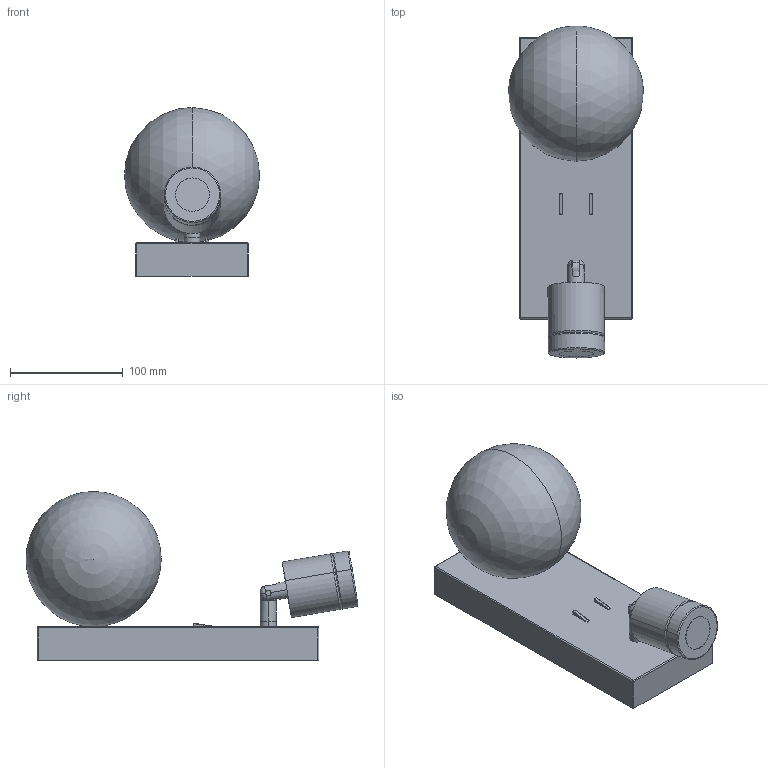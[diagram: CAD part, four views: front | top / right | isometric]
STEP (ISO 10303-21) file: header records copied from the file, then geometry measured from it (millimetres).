
FILE_DESCRIPTION (( 'STEP AP214' ), '1' );
FILE_NAME ('TEA_A1337.STEP', '2025-02-27T08:20:58', ( '' ), ( '' ), 'SwSTEP 2.0', 'SolidWorks 2018', '' );
FILE_SCHEMA (( 'AUTOMOTIVE_DESIGN' ));
Length unit declared in the file: millimetre
Products named in the file (5): tubo-rotula; Rotula2; regalo; TEA_A1337; estructura aplique
Assembly tree (4 placements, depth 2):
  TEA_A1337
    estructura aplique
    regalo
    Rotula2
    tubo-rotula
Bounding box: 120 x 294.7 x 150 mm (x, y, z)
Volume: 1752304.5 mm3; surface area: 146100.1 mm2
Topology: 12 solids, 13 shells, 118 faces, 265 edges, 165 vertices
Faces by surface type: cylinder 51, plane 43, torus 16, sphere 6, cone 2
Entity records: 3856 total; most frequent: CARTESIAN_POINT 1001, DIRECTION 570, ORIENTED_EDGE 512, EDGE_CURVE 256, AXIS2_PLACEMENT_3D 233, VERTEX_POINT 162, EDGE_LOOP 124, FACE_OUTER_BOUND 118
